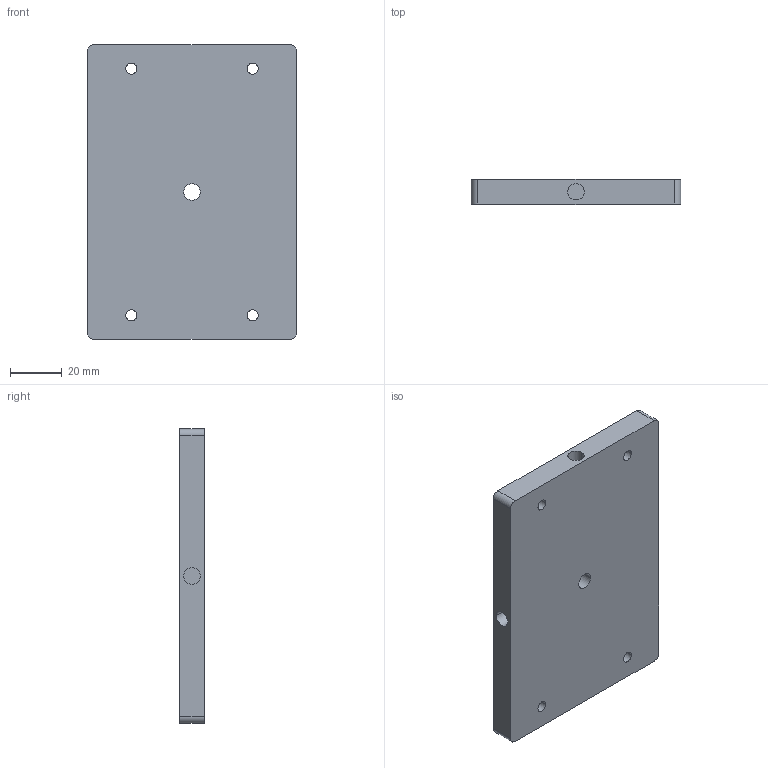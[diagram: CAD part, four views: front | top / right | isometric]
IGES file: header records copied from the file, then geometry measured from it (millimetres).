
Start section:  PTC IGES file: cu_tripod_mount.igs
Global section: file name: cu_tripod_mount.igs; native system: Pro/ENGINEER by Parametric Technology Corporation; preprocessor: 2006510; author: dkendric; organization: Unknown; date: 20101005.110031; units: inch
Bounding box: 81.28 x 9.53 x 114.3 mm (x, y, z)
Surface area: 23746.5 mm2 (no closed solid volume)
Topology: 0 solids, 0 shells, 40 faces, 188 edges, 188 vertices
Faces by surface type: revolution 30, bspline 10
